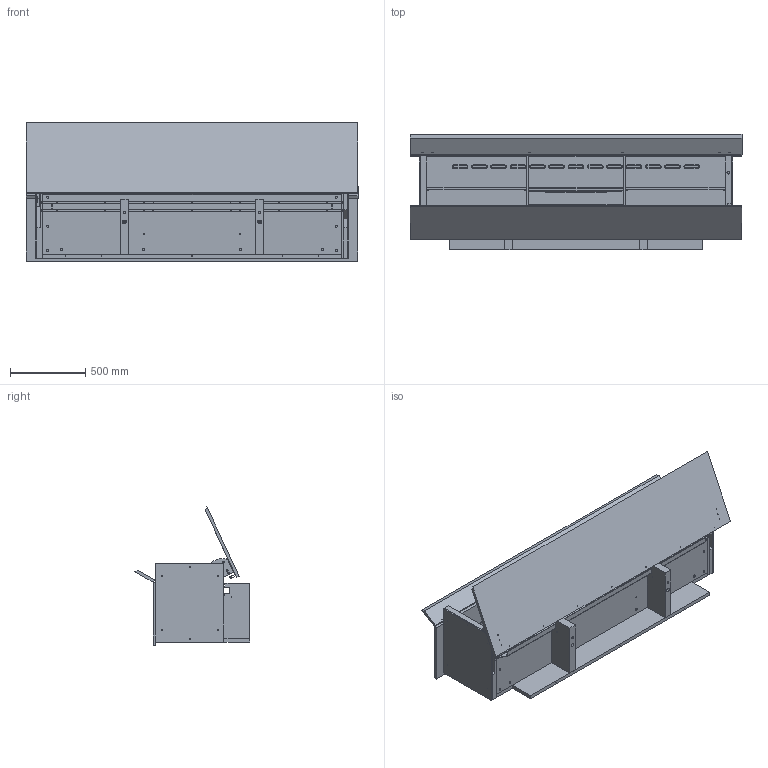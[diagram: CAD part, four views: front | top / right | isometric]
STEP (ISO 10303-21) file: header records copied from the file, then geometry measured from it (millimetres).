
FILE_DESCRIPTION (( 'STEP AP203' ), '1' );
FILE_NAME ('Assieme 220.STEP', '2021-08-31T10:55:02', ( '' ), ( '' ), 'SwSTEP 2.0', 'SolidWorks 2019', '' );
FILE_SCHEMA (( 'CONFIG_CONTROL_DESIGN' ));
Length unit declared in the file: millimetre
Products named in the file (22): Staffa SX; Telaio interno per cassettiera; Anta per credenza 220; Top per credenza 220; Fianco interno per credenza DX; Fianco esterno per credenza; Schiena forata per credenza 220; Alzatina per credenza 220; Profilo di sostegno per credenza (220); Ripiano in vetro 662; Perno reggipiano filettato; Assieme 220; Piede inox per credenza; Fianco interno per credenza; Astina per cassetti; Ripiani in legno per credenza; ''Oblo per illuminazione; Schermi per lampade LED 220; Profilo per anta (220); Cassetto per credenza; Fondo forato per credenza 220; Staffa DX
Assembly tree (61 placements, depth 2):
  Assieme 220
    Profilo di sostegno per credenza (220)
    Piede inox per credenza  x2
    Fondo forato per credenza 220
    Schiena forata per credenza 220
    Top per credenza 220
    Alzatina per credenza 220
    Fianco interno per credenza
    Fianco esterno per credenza  x2
    Telaio interno per cassettiera  x2
    ''Oblo per illuminazione  x26
    Astina per cassetti  x4
    Cassetto per credenza  x2
    Ripiani in legno per credenza
    Staffa SX
    Ripiano in vetro 662  x2
    Anta per credenza 220
    Profilo per anta (220)
    Schermi per lampade LED 220
    Staffa DX
    Perno reggipiano filettato  x8
    Fianco interno per credenza DX
Bounding box: 2200 x 762.84 x 916.1 mm (x, y, z)
Volume: 145666966.4 mm3; surface area: 18033342.9 mm2
Topology: 66 solids, 66 shells, 1943 faces, 4325 edges, 2780 vertices
Faces by surface type: plane 1111, cylinder 580, cone 188, torus 54, bspline 6, sphere 4
Full cylindrical faces by diameter (mm): 3 x36, 4 x20, 5 x60, 6 x72, 6.2 x8, 7 x28, 7.2 x8, 7.5 x8, 8 x67, 9 x9, 10 x2, 12 x8, 13 x8, 13.5 x2, 15 x23, 20 x3, 25 x2
Entity records: 34586 total; most frequent: DIRECTION 5556, CARTESIAN_POINT 5457, ORIENTED_EDGE 4528, EDGE_CURVE 2264, AXIS2_PLACEMENT_3D 2143, EDGE_LOOP 1852, VERTEX_POINT 1700, FACE_OUTER_BOUND 1415
